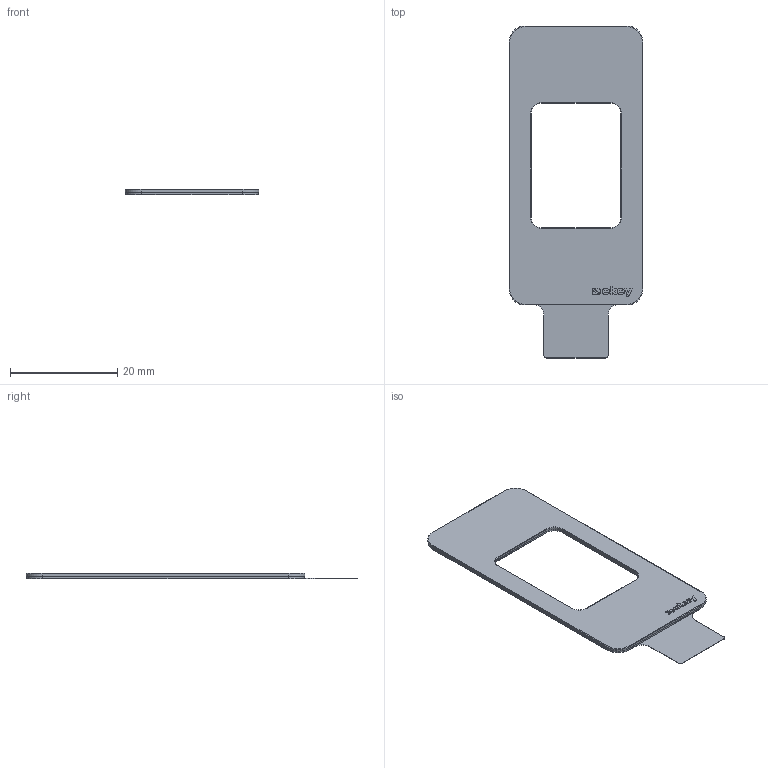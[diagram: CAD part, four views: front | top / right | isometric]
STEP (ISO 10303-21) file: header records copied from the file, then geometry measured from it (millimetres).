
FILE_DESCRIPTION(/* description */ ('Unknown'),/* implementation_level */ '2;1');
FILE_NAME(/* name */ '0040_07_ekey dLine cover TG EG',/* time_stamp */ '2020-12-22T10:26:47+01:00',/* author */ ('Unknown'),/* organization */ ('Unknown'),/* preprocessor_version */ 'ST-DEVELOPER v16.7',/* originating_system */ 'Solid Edge',/* authorisation */ 'Unknown');
FILE_SCHEMA (('AUTOMOTIVE_DESIGN {1 0 10303 214 3 1 1}'));
Length unit declared in the file: millimetre
Products named in the file (4): 0040_07_ekey dLine cover TG EG; 0040_007_ekey dLine cover TG EG; 0040_013_ekey dLine adhesive film TG; 0040_050_Klebefolie TG Trägerfolie
Assembly tree (3 placements, depth 2):
  0040_07_ekey dLine cover TG EG
    0040_007_ekey dLine cover TG EG
    0040_013_ekey dLine adhesive film TG
    0040_050_Klebefolie TG Trägerfolie
Bounding box: 25 x 62 x 0.96 mm (x, y, z)
Volume: 866.2 mm3; surface area: 5783.3 mm2
Topology: 3 solids, 3 shells, 158 faces, 416 edges, 272 vertices
Faces by surface type: plane 69, bspline 45, cylinder 36, torus 8
Entity records: 6315 total; most frequent: CARTESIAN_POINT 1781, ORIENTED_EDGE 832, DIRECTION 620, EDGE_CURVE 416, VERTEX_POINT 272, LINE 226, VECTOR 226, AXIS2_PLACEMENT_3D 197
